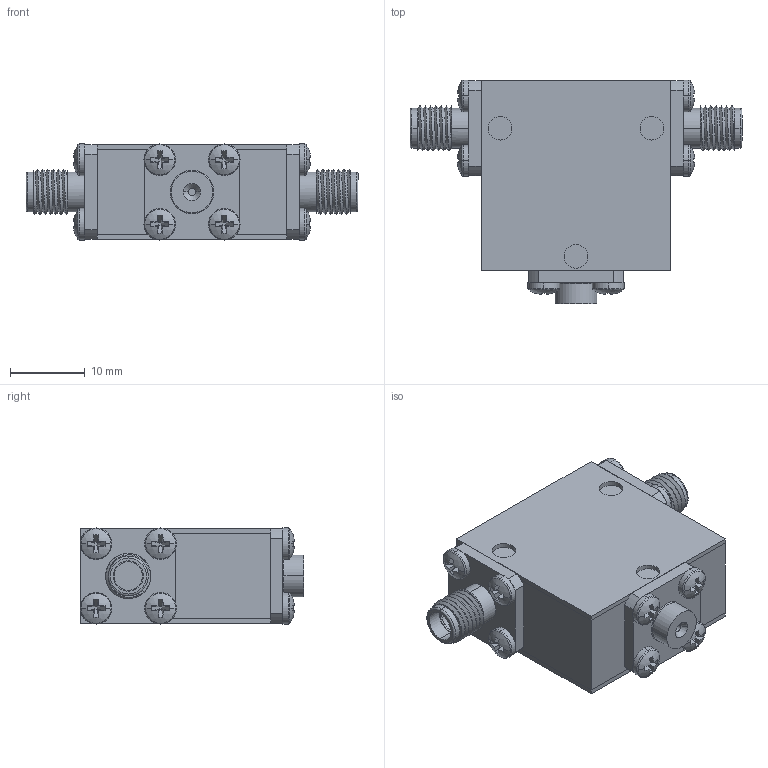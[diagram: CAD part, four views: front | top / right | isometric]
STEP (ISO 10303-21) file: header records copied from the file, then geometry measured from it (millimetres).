
FILE_DESCRIPTION (( 'STEP AP214' ), '1' );
FILE_NAME ('Package 3 Iso FF.step', '2021-12-01T21:00:16', ( '' ), ( '' ), 'SwSTEP 2.0', 'SolidWorks 2016', '' );
FILE_SCHEMA (( 'AUTOMOTIVE_DESIGN' ));
Length unit declared in the file: inch
Products named in the file (7): 030013-1A Same Base thickness as connectors; 0.5 x 0.5 Blank Template; pan cross head_ai_CR-PHMS 0.086-56x0.125x0.125-N; Package Size 3; Delta SMA-Female 0.500 flange Threaded; Package 3 Iso FF; Package 3
Assembly tree (18 placements, depth 2):
  Package 3 Iso FF
    Package 3
    Package Size 3
    Delta SMA-Female 0.500 flange Threaded  x2
    pan cross head_ai_CR-PHMS 0.086-56x0.125x0.125-N  x12
    0.5 x 0.5 Blank Template
    030013-1A Same Base thickness as connectors
Bounding box: 44.45 x 29.93 x 12.88 mm (x, y, z)
Volume: 9353.2 mm3; surface area: 8468.1 mm2
Topology: 18 solids, 18 shells, 424 faces, 966 edges, 598 vertices
Faces by surface type: plane 234, cylinder 126, torus 30, sphere 24, bspline 6, cone 4
Entity records: 5107 total; most frequent: CARTESIAN_POINT 1420, DIRECTION 771, ORIENTED_EDGE 642, EDGE_CURVE 321, AXIS2_PLACEMENT_3D 308, VERTEX_POINT 207, EDGE_LOOP 170, CIRCLE 158
